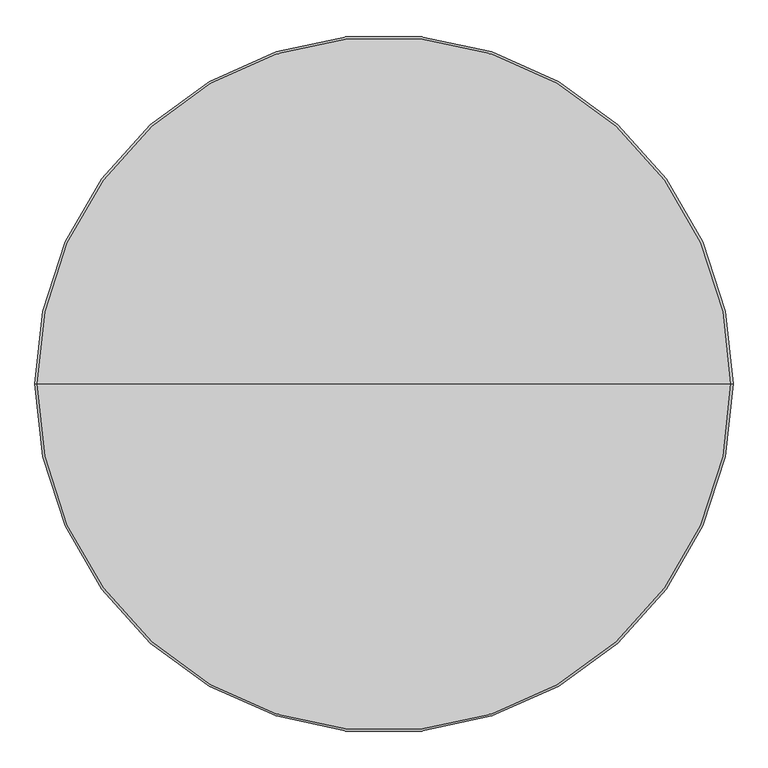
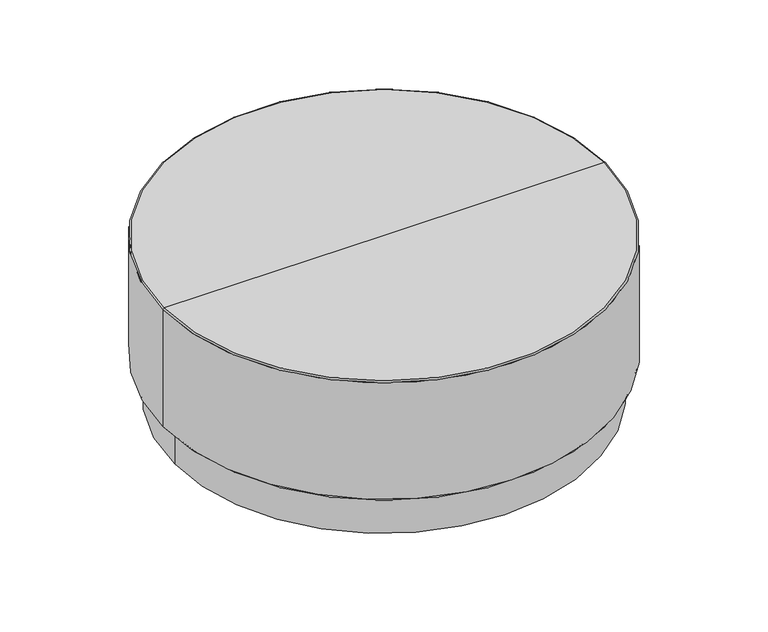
"""IFC4 building model written with IfcOpenShell, lengths in millimetres: furniture geometry, StanceHC-Drum_Table_Upholstered-Plinth_Base : DRT-42D-16-H."""

from ifc_helpers import new_model, si_unit, point, frame, frame_2d, origin, origin_with_axes, place, context, project, spatial, circle_curve, ellipse_curve, trimmed, segment, composite_curve, outline, extrude, source, transform, mapped, element, save
from ifc_brep_helpers import plane_surface, cylinder_surface, revolved_surface, advanced_brep


def furniture_d53b618d(model_context):
    return source(origin(), model_context, "Body", "SolidModel", [
        extrude(outline(composite_curve([segment(trimmed(circle_curve(frame_2d((0.0, 472.3664845)), 12.7), [point((-12.7, 472.3664845))], [point((12.7, 472.3664845))], False, "CARTESIAN"), True, "CONTINUOUS"), segment(trimmed(circle_curve(frame_2d((0.0, 472.3664845)), 12.7), [point((12.7, 472.3664845))], [point((-12.7, 472.3664845))], False, "CARTESIAN"), True, "CONTINUOUS")], self_intersect=False)), origin_with_axes(), (0.0, 0.0, 1.0), 4.7625),
        extrude(outline(composite_curve([segment(trimmed(circle_curve(frame_2d((0.0, -472.3664845)), 12.7), [point((-12.7, -472.3664845))], [point((12.7, -472.3664845))], False, "CARTESIAN"), True, "CONTINUOUS"), segment(trimmed(circle_curve(frame_2d((0.0, -472.3664845)), 12.7), [point((12.7, -472.3664845))], [point((-12.7, -472.3664845))], False, "CARTESIAN"), True, "CONTINUOUS")], self_intersect=False)), origin_with_axes(), (0.0, 0.0, 1.0), 4.7625),
        extrude(outline(composite_curve([segment(trimmed(circle_curve(frame_2d((476.2496404, 0.0)), 12.7), [point((463.5496404, 0.0))], [point((488.9496404, 0.0))], False, "CARTESIAN"), True, "CONTINUOUS"), segment(trimmed(circle_curve(frame_2d((476.2496404, 0.0)), 12.7), [point((488.9496404, 0.0))], [point((463.5496404, 0.0))], False, "CARTESIAN"), True, "CONTINUOUS")], self_intersect=False)), origin_with_axes(), (0.0, 0.0, 1.0), 4.7625),
        extrude(outline(composite_curve([segment(trimmed(circle_curve(frame_2d((-476.2496404, 0.0)), 12.7), [point((-488.9496404, 0.0))], [point((-463.5496404, 0.0))], False, "CARTESIAN"), True, "CONTINUOUS"), segment(trimmed(circle_curve(frame_2d((-476.2496404, 0.0)), 12.7), [point((-463.5496404, 0.0))], [point((-488.9496404, 0.0))], False, "CARTESIAN"), True, "CONTINUOUS")], self_intersect=False)), origin_with_axes(), (0.0, 0.0, 1.0), 4.7625),
        advanced_brep(
        [(-528.6042756, 0.0, 106.3625), (528.6042756, 0.0, 106.3625), (504.8246404, 0.0, 106.3625), (-504.8246404, 0.0, 106.3625), (-528.6042756, 0.0, 111.125), (528.6042756, 0.0, 111.125), (0.0, 0.0, 111.125), (-504.8246404, 0.0, 4.7625), (504.8246404, 0.0, 4.7625), (0.0, 0.0, 4.7625)],
        [
            (0, 1, circle_curve(frame((0.0, 0.0, 106.3625), z_axis=(0.0, 0.0, -1.0), x_axis=(1.0, 0.0, 0.0)), 528.6042756)),
            (1, 2),
            (2, 3, circle_curve(frame((0.0, 0.0, 106.3625), z_axis=(0.0, 0.0, 1.0), x_axis=(1.0, 0.0, 0.0)), 504.8246404)),
            (3, 0),
            (1, 0, circle_curve(frame((0.0, 0.0, 106.3625), z_axis=(0.0, 0.0, -1.0), x_axis=(1.0, 0.0, 0.0)), 528.6042756)),
            (3, 2, circle_curve(frame((0.0, 0.0, 106.3625), z_axis=(0.0, 0.0, 1.0), x_axis=(1.0, 0.0, 0.0)), 504.8246404)),
            (4, 5, circle_curve(frame((0.0, 0.0, 111.125), z_axis=(0.0, 0.0, -1.0), x_axis=(1.0, 0.0, 0.0)), 528.6042756)),
            (5, 1, circle_curve(frame((528.6042756, 0.0, 108.74375), z_axis=(0.0, 1.0, 0.0), x_axis=(1.0, 0.0, 0.0)), 2.38125)),
            (0, 4, circle_curve(frame((-528.6042756, 0.0, 108.74375), z_axis=(0.0, 1.0, 0.0), x_axis=(-1.0, 0.0, 0.0)), 2.38125)),
            (5, 4, circle_curve(frame((0.0, 0.0, 111.125), z_axis=(0.0, 0.0, -1.0), x_axis=(1.0, 0.0, 0.0)), 528.6042756)),
            (6, 5),
            (4, 6),
            (7, 8, circle_curve(frame((0.0, 0.0, 4.7625), z_axis=(0.0, 0.0, -1.0), x_axis=(1.0, 0.0, 0.0)), 504.8246404)),
            (8, 9),
            (9, 7),
            (8, 7, circle_curve(frame((0.0, 0.0, 4.7625), z_axis=(0.0, 0.0, -1.0), x_axis=(1.0, 0.0, 0.0)), 504.8246404)),
            (2, 8),
            (7, 3),
        ],
        [
            plane_surface(frame((0.0, 0.0, 106.3625), z_axis=(0.0, 0.0, -1.0), x_axis=(1.0, 0.0, 0.0))),
            revolved_surface(trimmed(ellipse_curve(frame((528.6042756, 0.0, 108.74375), z_axis=(0.0, -1.0, 0.0), x_axis=(1.0, 0.0, 0.0)), 2.38125, 2.38125), [point((528.6042756, 0.0, 106.3625))], [point((528.6042756, 0.0, 111.125))], True, "CARTESIAN"), (0.0, 0.0, 165.1), (0.0, 0.0, 1.0)),
            plane_surface(frame((0.0, 0.0, 111.125), z_axis=(0.0, 0.0, 1.0), x_axis=(1.0, 0.0, 0.0))),
            plane_surface(frame((0.0, 0.0, 4.7625), z_axis=(0.0, 0.0, -1.0), x_axis=(1.0, 0.0, 0.0))),
            cylinder_surface(frame((0.0, 0.0, 165.1), z_axis=(0.0, 0.0, 1.0), x_axis=(1.0, 0.0, 0.0)), 504.8246404),
        ],
        [
            (0, [[1, 2, 3, 4]]),
            (0, [[5, -4, 6, -2]]),
            (1, [[7, 8, -1, 9]]),
            (1, [[10, -9, -5, -8]]),
            (2, [[11, -7, 12]]),
            (2, [[-12, -10, -11]]),
            (3, [[13, 14, 15]]),
            (3, [[16, -15, -14]]),
            (4, [[-3, 17, -13, 18]]),
            (4, [[-6, -18, -16, -17]]),
        ],
    ),
        advanced_brep(
        [(-533.4, 0.0, 111.125), (533.4, 0.0, 111.125), (0.0, 0.0, 111.125), (-533.4, 0.0, 408.0389933), (533.4, 0.0, 408.0389933), (-530.2764933, 0.0, 411.1625), (530.2764933, 0.0, 411.1625), (0.0, 0.0, 411.1625)],
        [
            (0, 1, circle_curve(frame((0.0, 0.0, 111.125), z_axis=(0.0, 0.0, -1.0), x_axis=(1.0, 0.0, 0.0)), 533.4)),
            (1, 2),
            (2, 0),
            (1, 0, circle_curve(frame((0.0, 0.0, 111.125), z_axis=(0.0, 0.0, -1.0), x_axis=(1.0, 0.0, 0.0)), 533.4)),
            (3, 4, circle_curve(frame((0.0, 0.0, 408.0389933), z_axis=(0.0, 0.0, -1.0), x_axis=(1.0, 0.0, 0.0)), 533.4)),
            (4, 1),
            (0, 3),
            (4, 3, circle_curve(frame((0.0, 0.0, 408.0389933), z_axis=(0.0, 0.0, -1.0), x_axis=(1.0, 0.0, 0.0)), 533.4)),
            (5, 6, circle_curve(frame((0.0, 0.0, 411.1625), z_axis=(0.0, 0.0, -1.0), x_axis=(1.0, 0.0, 0.0)), 530.2764933)),
            (6, 4, circle_curve(frame((530.2764933, 0.0, 408.0389933), z_axis=(0.0, 1.0, 0.0), x_axis=(1.0, 0.0, 0.0)), 3.1235067)),
            (3, 5, circle_curve(frame((-530.2764933, 0.0, 408.0389933), z_axis=(0.0, 1.0, 0.0), x_axis=(-1.0, 0.0, 0.0)), 3.1235067)),
            (6, 5, circle_curve(frame((0.0, 0.0, 411.1625), z_axis=(0.0, 0.0, -1.0), x_axis=(1.0, 0.0, 0.0)), 530.2764933)),
            (7, 6),
            (5, 7),
        ],
        [
            plane_surface(frame((0.0, 0.0, 111.125), z_axis=(0.0, 0.0, -1.0), x_axis=(1.0, 0.0, 0.0))),
            cylinder_surface(frame((0.0, 0.0, 506.4125), z_axis=(0.0, 0.0, 1.0), x_axis=(1.0, 0.0, 0.0)), 533.4),
            revolved_surface(trimmed(ellipse_curve(frame((530.2764933, 0.0, 408.0389933), z_axis=(0.0, -1.0, 0.0), x_axis=(1.0, 0.0, 0.0)), 3.1235067, 3.1235067), [point((533.4, 0.0, 408.0389933))], [point((530.2764933, 0.0, 411.1625))], True, "CARTESIAN"), (0.0, 0.0, 506.4125), (0.0, 0.0, 1.0)),
            plane_surface(frame((0.0, 0.0, 411.1625), z_axis=(0.0, 0.0, 1.0), x_axis=(1.0, 0.0, 0.0))),
        ],
        [
            (0, [[1, 2, 3]]),
            (0, [[4, -3, -2]]),
            (1, [[5, 6, -1, 7]]),
            (1, [[8, -7, -4, -6]]),
            (2, [[9, 10, -5, 11]]),
            (2, [[12, -11, -8, -10]]),
            (3, [[13, -9, 14]]),
            (3, [[-14, -12, -13]]),
        ],
    ),
    ])


if __name__ == "__main__":
    model = new_model("IFC4")
    model_context = context("Model", 3, world=origin())
    ifc_project = project(units=[si_unit("LENGTHUNIT", "METRE", prefix="MILLI")], contexts=[model_context])
    site = spatial("IfcSite", under=ifc_project)
    building = spatial("IfcBuilding", under=site)
    placement = place(None, origin())
    furniture_shape = furniture_d53b618d(model_context)
    element("IfcFurniture", 1, ObjectType="StanceHC-Drum_Table_Upholstered-Plinth_Base : DRT-42D-16-H", at=placement, inside=building, context=model_context, shape_type="MappedRepresentation", body=[
        mapped(furniture_shape, transform((0.0, 0.0, 0.0), x_axis=(1.0, 0.0, 0.0), y_axis=(0.0, 1.0, 0.0), z_axis=(0.0, 0.0, 1.0))),
    ])
    save(model, "model.ifc")
